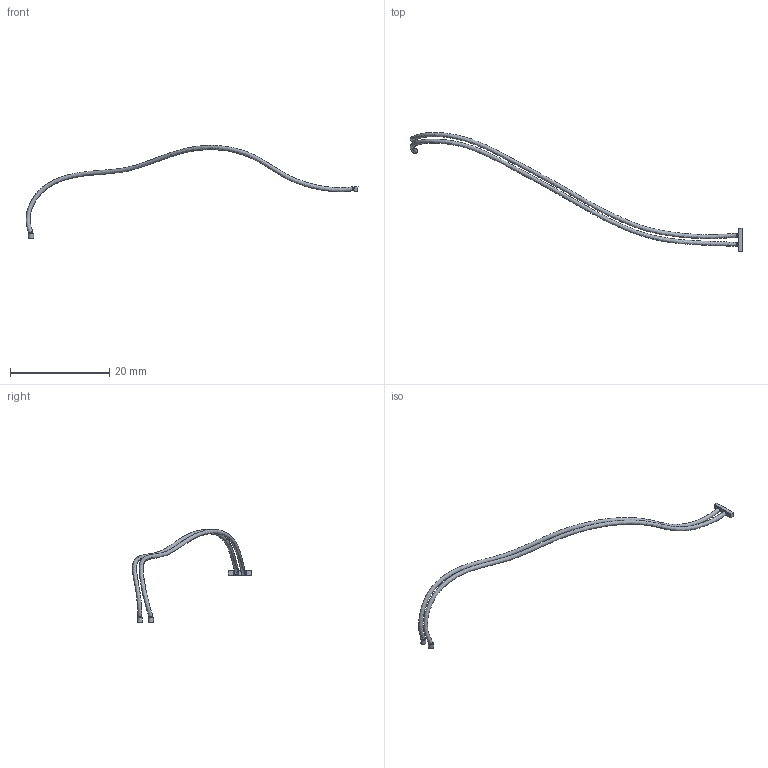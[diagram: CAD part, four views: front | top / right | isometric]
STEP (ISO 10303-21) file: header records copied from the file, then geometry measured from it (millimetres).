
FILE_DESCRIPTION(('Open CASCADE Model'),'2;1');
FILE_NAME('right-soldered-fsr-lead-reference.step','2026-11-14T19:54:31' ,('Author'),('Open CASCADE'),'Open CASCADE STEP processor 8.0', 'Open CASCADE 8.0','Unknown');
FILE_SCHEMA(('AP242_MANAGED_MODEL_BASED_3D_ENGINEERING_MIM_LF {1 0 10303 442 1 1 4 }' ));
Length unit declared in the file: millimetre
Products named in the file (1): Right Soldered FSR Lead Reference
Bounding box: 66.87 x 23.96 x 18.76 mm (x, y, z)
Volume: 89.4 mm3; surface area: 445.8 mm2
Topology: 11 solids, 11 shells, 42 faces, 60 edges, 40 vertices
Faces by surface type: plane 34, cylinder 6, bspline 2
Full cylindrical faces by diameter (mm): 0.4 x2, 0.6 x2, 1.04 x2
Entity records: 6339 total; most frequent: CARTESIAN_POINT 4891, DIRECTION 264, LINE 146, VECTOR 146, ORIENTED_EDGE 120, PCURVE 120, DEFINITIONAL_REPRESENTATION 120, EDGE_CURVE 60
